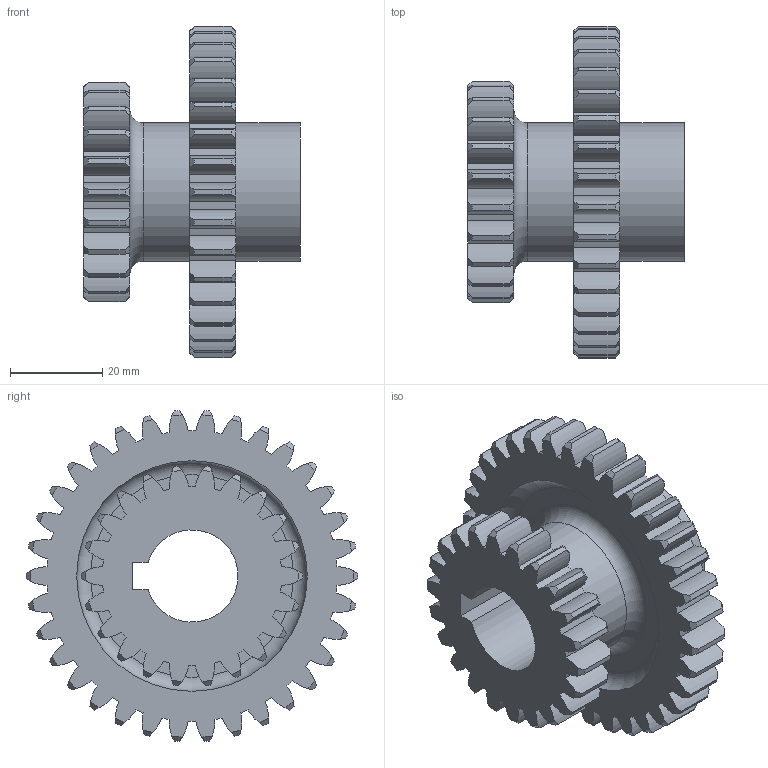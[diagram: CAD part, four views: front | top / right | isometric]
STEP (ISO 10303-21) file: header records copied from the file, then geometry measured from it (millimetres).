
FILE_DESCRIPTION(/* description */ (''),/* implementation_level */ '2;1');
FILE_NAME(/* name */ 'C:\Users\User\Desktop\주민기 -3080813E1014\3D\부품1.stp',/* time_stamp */ '2018-08-08T16:35:38+09:00',/* author */ ('User'),/* organization */ (''),/* preprocessor_version */ 'ST-DEVELOPER v16.13',/* originating_system */ 'Autodesk Inventor 2018',/* authorisation */ '');
FILE_SCHEMA (('AUTOMOTIVE_DESIGN { 1 0 10303 214 3 1 1 }'));
Length unit declared in the file: millimetre
Products named in the file (1): 부품1
Bounding box: 47 x 72 x 71.79 mm (x, y, z)
Volume: 47933.4 mm3; surface area: 21449.6 mm2
Topology: 1 solids, 1 shells, 354 faces, 1038 edges, 691 vertices
Faces by surface type: cylinder 227, cone 112, plane 10, torus 5
Full cylindrical faces by diameter (mm): 30 x2
Entity records: 12303 total; most frequent: CARTESIAN_POINT 2749, DIRECTION 2090, ORIENTED_EDGE 2062, EDGE_CURVE 1031, AXIS2_PLACEMENT_3D 928, VERTEX_POINT 691, CIRCLE 573, EDGE_LOOP 368
